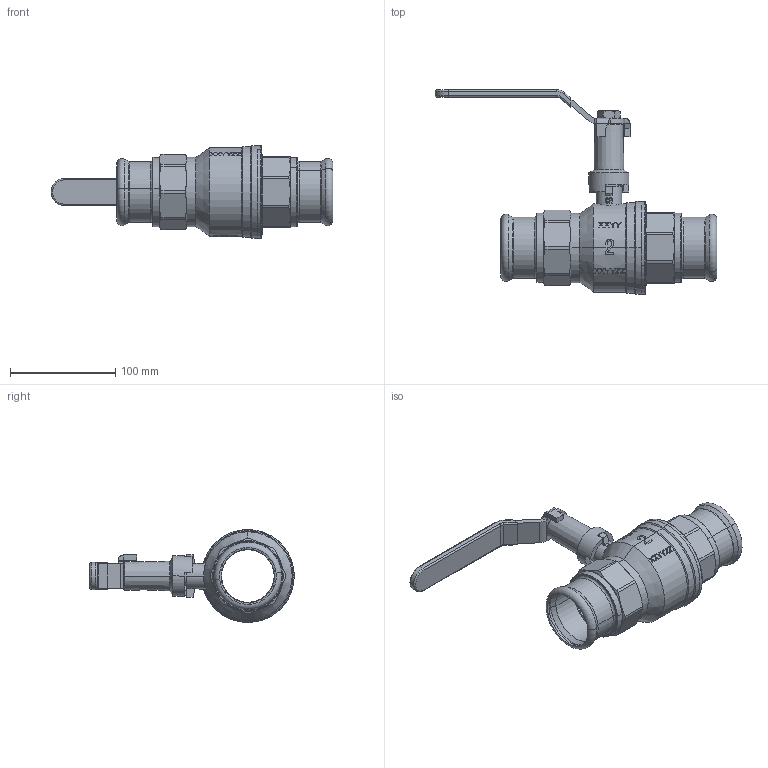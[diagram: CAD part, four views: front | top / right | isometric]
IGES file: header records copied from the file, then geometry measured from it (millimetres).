
Global section: file name: No Iges File Name specified; native system: AutoDesk Inventor R12.0; preprocessor: AutoDesk Inventor Iges Exporter R12.0; date: 20120119.092702; units: millimetre
Bounding box: 267.5 x 194 x 88 mm (x, y, z)
Volume: 388101.6 mm3; surface area: 162926.2 mm2
Topology: 1 solids, 8 shells, 1047 faces, 3203 edges, 2275 vertices
Faces by surface type: plane 457, bspline 211, revolution 134, cylinder 119, cone 90, torus 32, sphere 4
